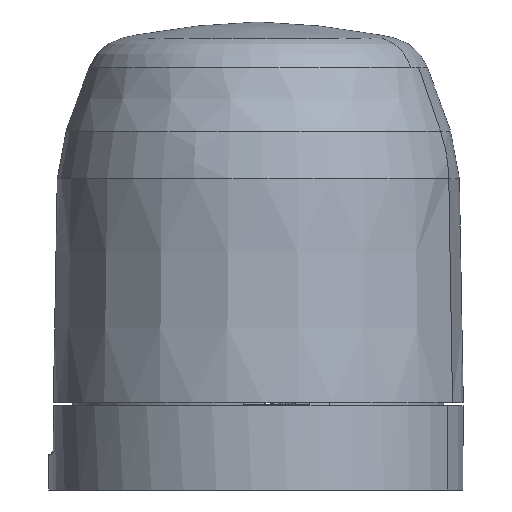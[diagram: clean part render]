
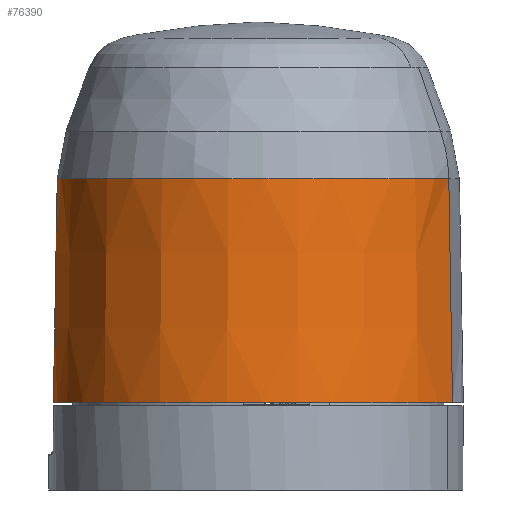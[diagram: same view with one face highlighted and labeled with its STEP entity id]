
A CAD part, front view. The second image highlights one B-rep face of the part: STEP entity #76390.
In plain terms, the highlighted conical face has half-angle 1 degrees and reference radius 34.667 mm.
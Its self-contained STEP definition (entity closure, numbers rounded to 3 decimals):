
#27320=CARTESIAN_POINT('',(0.,0.,113.107));
#27321=DIRECTION('',(0.,0.,1.));
#27322=DIRECTION('',(-0.947,0.321,0.));
#27323=AXIS2_PLACEMENT_3D('',#27320,#27321,#27322);
#27340=CARTESIAN_POINT('',(0.,0.,74.834));
#27341=DIRECTION('',(0.,0.,-1.));
#27342=DIRECTION('',(0.947,-0.321,0.));
#27343=AXIS2_PLACEMENT_3D('',#27340,#27341,#27342);
#27345=DIRECTION('',(-0.017,0.006,-1.));
#27346=VECTOR('',#27345,38.28);
#27347=CARTESIAN_POINT('',(-32.52,11.011,
113.107));
#27348=LINE('',#27347,#27346);
#27359=DIRECTION('',(0.017,-0.006,-1.));
#27360=VECTOR('',#27359,38.28);
#27361=CARTESIAN_POINT('',(32.52,-11.011,
113.107));
#27362=LINE('',#27361,#27360);
#28296=CARTESIAN_POINT('',(-32.52,11.011,
113.107));
#28297=VERTEX_POINT('',#28296);
#28298=CARTESIAN_POINT('',(32.52,-11.011,
113.107));
#28299=VERTEX_POINT('',#28298);
#28300=CARTESIAN_POINT('',(33.153,-11.225,74.834));
#28301=VERTEX_POINT('',#28300);
#28302=CARTESIAN_POINT('',(-33.153,11.225,74.834));
#28303=VERTEX_POINT('',#28302);
#76376=CARTESIAN_POINT('',(0.,0.,93.97));
#76377=DIRECTION('',(0.,0.,-1.));
#76378=DIRECTION('',(0.947,-0.321,0.));
#76379=AXIS2_PLACEMENT_3D('',#76376,#76377,#76378);
#76380=CONICAL_SURFACE('',#76379,34.667,1.);
#76381=ORIENTED_EDGE('',*,*,#76334,.T.);
#76383=ORIENTED_EDGE('',*,*,#76382,.T.);
#76385=ORIENTED_EDGE('',*,*,#76384,.T.);
#76387=ORIENTED_EDGE('',*,*,#76386,.F.);
#76388=EDGE_LOOP('',(#76381,#76383,#76385,#76387));
#76389=FACE_OUTER_BOUND('',#76388,.F.);
#76390=ADVANCED_FACE('',(#76389),#76380,.T.);
#27324=CIRCLE('',#27323,34.333);
#27344=CIRCLE('',#27343,35.001);
#76334=EDGE_CURVE('',#28297,#28299,#27324,.T.);
#76382=EDGE_CURVE('',#28299,#28301,#27362,.T.);
#76384=EDGE_CURVE('',#28301,#28303,#27344,.T.);
#76386=EDGE_CURVE('',#28297,#28303,#27348,.T.);
